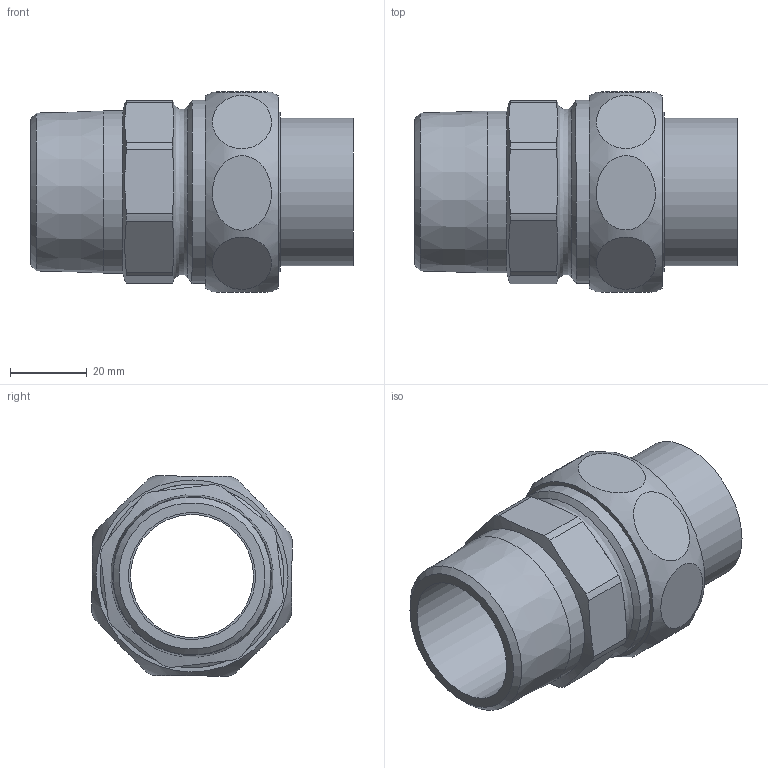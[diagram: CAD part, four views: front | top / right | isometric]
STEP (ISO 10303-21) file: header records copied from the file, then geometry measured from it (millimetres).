
FILE_DESCRIPTION((''),'2;1');
FILE_NAME('\\Lg50001\groups\SANHA Legnica\Engineering\Public\RYSUNKI\SANHA POLSKA\4333g\step\14333g_35-114(1).stp','2010-07-23T14:19:19',('pajchrowski'),(''),'Autodesk Inventor 2009','Autodesk Inventor 2009','');
FILE_SCHEMA(('AUTOMOTIVE_DESIGN { 1 0 10303 214 1 1 1 1 }'));
Length unit declared in the file: millimetre
Products named in the file (5): 14333g_35-114(1); 14372_35-112(1); 14374_112(0); 1DCU112; 14376g-114_112(1)
Assembly tree (4 placements, depth 2):
  14333g_35-114(1)
    14372_35-112(1)
    14374_112(0)
    1DCU112
    14376g-114_112(1)
Bounding box: 84 x 52.18 x 52.18 mm (x, y, z)
Volume: 60780 mm3; surface area: 31766.1 mm2
Topology: 4 solids, 4 shells, 57 faces, 113 edges, 75 vertices
Faces by surface type: plane 28, cylinder 20, cone 7, bspline 2
Full cylindrical faces by diameter (mm): 32 x1, 33 x2, 35 x1, 38.4 x1, 41.5 x1, 42.306 x1, 42.5 x1, 44 x1, 44.5 x1, 44.845 x1, 47.803 x1
Entity records: 2980 total; most frequent: CARTESIAN_POINT 1756, DIRECTION 240, ORIENTED_EDGE 176, AXIS2_PLACEMENT_3D 112, EDGE_LOOP 98, EDGE_CURVE 88, VERTEX_POINT 72, FACE_OUTER_BOUND 57
